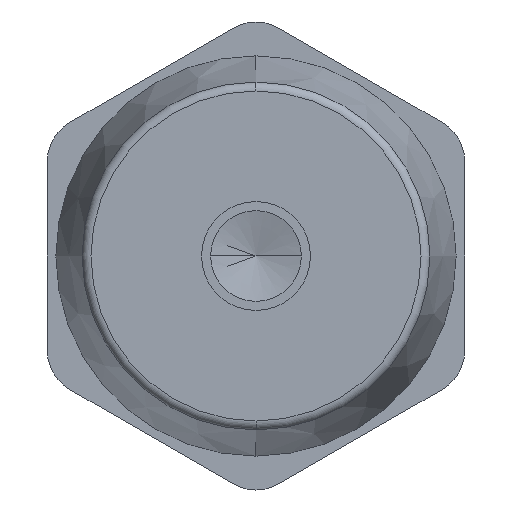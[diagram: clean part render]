
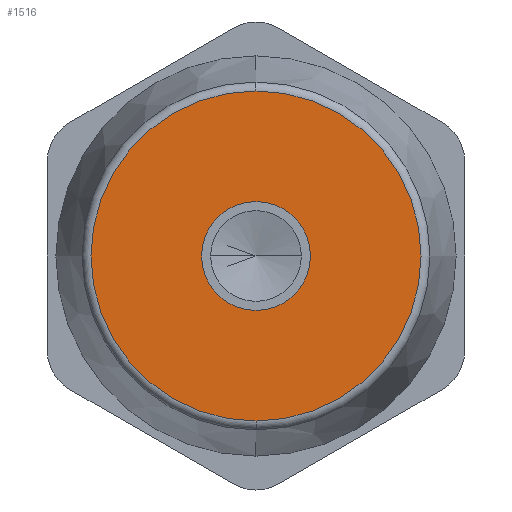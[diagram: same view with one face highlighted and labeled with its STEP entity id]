
A CAD part, front view. The second image highlights one B-rep face of the part: STEP entity #1516.
In plain terms, the highlighted planar face has unit normal (0, -1, 0).
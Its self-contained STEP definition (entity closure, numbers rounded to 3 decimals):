
#112 = CARTESIAN_POINT ( 'NONE',  ( 0., 0., 0. ) ) ;
#114 = EDGE_CURVE ( 'NONE', #1833, #2632, #271, .T. ) ;
#271 = CIRCLE ( 'NONE', #585, 18.183 ) ;
#283 = DIRECTION ( 'NONE',  ( -1., 0., 0. ) ) ;
#402 = EDGE_CURVE ( 'NONE', #529, #2251, #1116, .T. ) ;
#406 = DIRECTION ( 'NONE',  ( 0., -1., 0. ) ) ;
#465 = CIRCLE ( 'NONE', #2283, 6. ) ;
#491 = AXIS2_PLACEMENT_3D ( 'NONE', #2581, #406, #668 ) ;
#529 = VERTEX_POINT ( 'NONE', #1081 ) ;
#585 = AXIS2_PLACEMENT_3D ( 'NONE', #112, #1760, #1539 ) ;
#614 = EDGE_LOOP ( 'NONE', ( #1080, #1921 ) ) ;
#657 = FACE_OUTER_BOUND ( 'NONE', #2462, .T. ) ;
#668 = DIRECTION ( 'NONE',  ( 0., 0., 1. ) ) ;
#850 = CARTESIAN_POINT ( 'NONE',  ( 23., 0., -13.279 ) ) ;
#913 = DIRECTION ( 'NONE',  ( -1., 0., 0. ) ) ;
#1080 = ORIENTED_EDGE ( 'NONE', *, *, #1334, .T. ) ;
#1081 = CARTESIAN_POINT ( 'NONE',  ( 6., 0., 0. ) ) ;
#1082 = CARTESIAN_POINT ( 'NONE',  ( 0., 0., 0. ) ) ;
#1116 = CIRCLE ( 'NONE', #2275, 6. ) ;
#1271 = CARTESIAN_POINT ( 'NONE',  ( 0., 0., 18.183 ) ) ;
#1334 = EDGE_CURVE ( 'NONE', #2251, #529, #465, .T. ) ;
#1516 = ADVANCED_FACE ( 'NONE', ( #1907, #657 ), #2573, .F. ) ;
#1539 = DIRECTION ( 'NONE',  ( 0., 0., 1. ) ) ;
#1552 = DIRECTION ( 'NONE',  ( 0., 1., 0. ) ) ;
#1603 = CARTESIAN_POINT ( 'NONE',  ( 0., 0., 0. ) ) ;
#1673 = AXIS2_PLACEMENT_3D ( 'NONE', #850, #1713, #2348 ) ;
#1713 = DIRECTION ( 'NONE',  ( 0., 1., 0. ) ) ;
#1760 = DIRECTION ( 'NONE',  ( 0., -1., 0. ) ) ;
#1809 = DIRECTION ( 'NONE',  ( 0., 1., 0. ) ) ;
#1833 = VERTEX_POINT ( 'NONE', #1271 ) ;
#1904 = EDGE_CURVE ( 'NONE', #2632, #1833, #2051, .T. ) ;
#1905 = ORIENTED_EDGE ( 'NONE', *, *, #114, .T. ) ;
#1907 = FACE_BOUND ( 'NONE', #614, .T. ) ;
#1921 = ORIENTED_EDGE ( 'NONE', *, *, #402, .T. ) ;
#2051 = CIRCLE ( 'NONE', #491, 18.183 ) ;
#2248 = CARTESIAN_POINT ( 'NONE',  ( 0., 0., -18.183 ) ) ;
#2251 = VERTEX_POINT ( 'NONE', #2612 ) ;
#2275 = AXIS2_PLACEMENT_3D ( 'NONE', #1082, #1552, #913 ) ;
#2283 = AXIS2_PLACEMENT_3D ( 'NONE', #1603, #1809, #283 ) ;
#2348 = DIRECTION ( 'NONE',  ( 0., 0., 1. ) ) ;
#2397 = ORIENTED_EDGE ( 'NONE', *, *, #1904, .T. ) ;
#2462 = EDGE_LOOP ( 'NONE', ( #1905, #2397 ) ) ;
#2573 = PLANE ( 'NONE',  #1673 ) ;
#2581 = CARTESIAN_POINT ( 'NONE',  ( 0., 0., 0. ) ) ;
#2612 = CARTESIAN_POINT ( 'NONE',  ( -6., 0., 0. ) ) ;
#2632 = VERTEX_POINT ( 'NONE', #2248 ) ;
